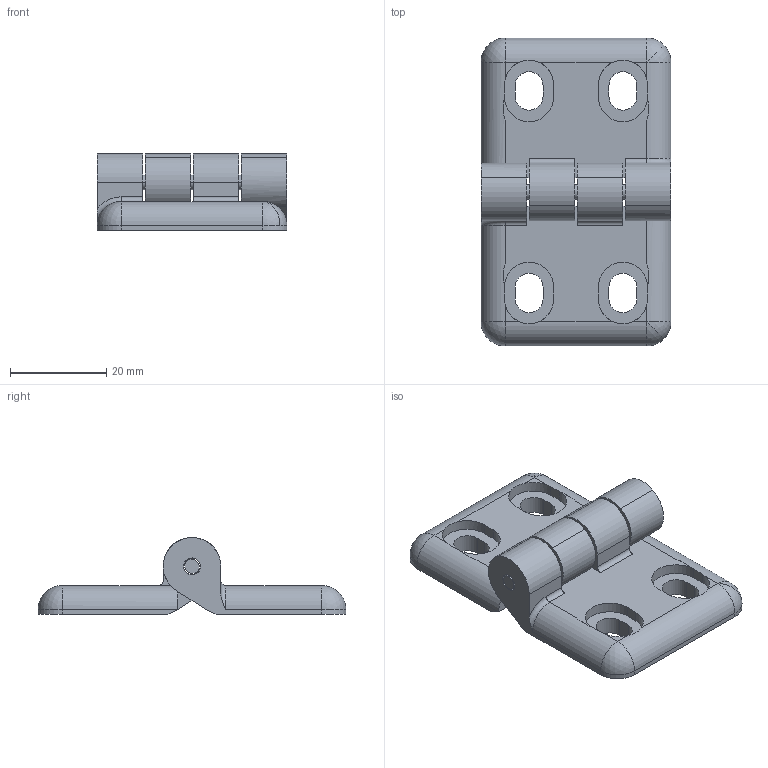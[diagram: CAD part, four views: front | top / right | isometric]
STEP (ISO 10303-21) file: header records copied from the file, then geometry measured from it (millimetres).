
FILE_DESCRIPTION (( 'STEP AP214' ), '1' );
FILE_NAME ('1.4011 Sarana 45 PA M6.STEP', '2025-09-15T07:52:18', ( '' ), ( '' ), 'SwSTEP 2.0', 'SolidWorks 2025', '' );
FILE_SCHEMA (( 'AUTOMOTIVE_DESIGN' ));
Length unit declared in the file: millimetre
Products named in the file (1): 1.4011 Sarana 45 PA M6
Bounding box: 39.5 x 64 x 16 mm (x, y, z)
Volume: 15587 mm3; surface area: 8632 mm2
Topology: 2 solids, 2 shells, 124 faces, 350 edges, 224 vertices
Faces by surface type: plane 60, cylinder 56, sphere 6, torus 2
Entity records: 4206 total; most frequent: CARTESIAN_POINT 871, ORIENTED_EDGE 700, DIRECTION 692, EDGE_CURVE 350, AXIS2_PLACEMENT_3D 239, VERTEX_POINT 224, LINE 214, VECTOR 214
